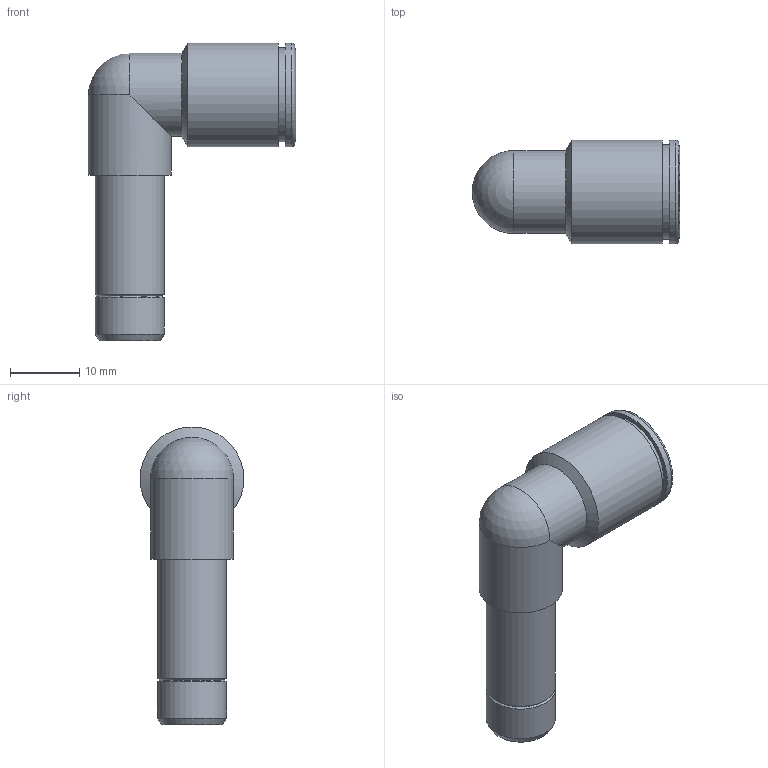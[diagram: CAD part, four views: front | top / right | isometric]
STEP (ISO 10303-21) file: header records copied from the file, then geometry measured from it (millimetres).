
FILE_DESCRIPTION(('Bauteilbeschreibung','HiCAD-Model','HiCAD-STEP-TRANSLATION','Bauteilbeschreibung'),'2;1');
FILE_NAME('B:/ABGLEICH/ZEICHNUNGEN/STEP FÜR INTERNET/STEP/IPSO 047/204705_IPSO_047_10.STP','2012-03-20T08:52:52+00:00',('Konstrukteur'),('Konstrukteur Firma GmbH'),' HiCAD neXt 2008, Step 3.1.1401.2J ','HiCAD neXt 2008','confidential');
FILE_SCHEMA(('AUTOMOTIVE_DESIGN { 1 2 10303 214 0 1 1 1 }'));
Length unit declared in the file: millimetre
Products named in the file (3): A04705_IPSO_047_10; R204705_N; DR10_N
Assembly tree (2 placements, depth 2):
  A04705_IPSO_047_10
    R204705_N
    DR10_N
Bounding box: 30 x 15 x 43.1 mm (x, y, z)
Volume: 2945.9 mm3; surface area: 4786.9 mm2
Topology: 2 solids, 2 shells, 42 faces, 90 edges, 53 vertices
Faces by surface type: cylinder 18, cone 15, plane 7, sphere 1, torus 1
Full cylindrical faces by diameter (mm): 8 x2, 10 x2, 10.2 x2, 12 x2, 12.3 x1, 13 x1, 13.6 x1, 13.7 x1, 15 x2
Entity records: 1769 total; most frequent: CARTESIAN_POINT 694, DIRECTION 184, ORIENTED_EDGE 102, AXIS2_PLACEMENT_3D 92, EDGE_LOOP 77, EDGE_CURVE 51, COLOUR_RGB 48, PRESENTATION_STYLE_ASSIGNMENT 48
